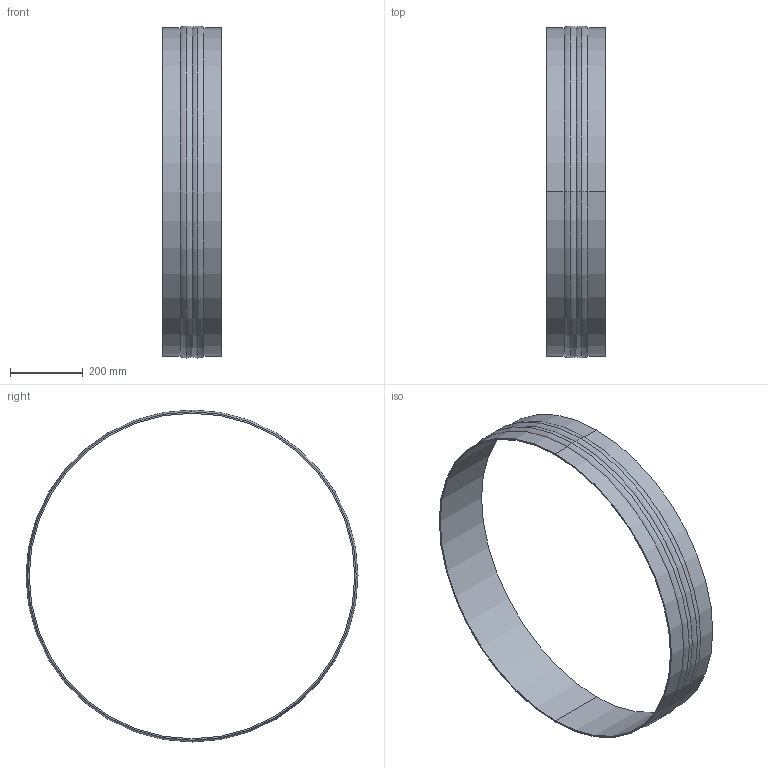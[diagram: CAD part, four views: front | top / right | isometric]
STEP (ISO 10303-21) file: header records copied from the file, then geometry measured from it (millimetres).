
FILE_DESCRIPTION(('STEP AP214'),'1');
FILE_NAME('accessory_5138886800.stp','2017-10-09T09:13:05',('TraceParts'),('TraceParts S.A.'),'Spatial InterOp 3D',' ',' ');
FILE_SCHEMA(('automotive_design'));
Length unit declared in the file: millimetre
Products named in the file (1): accessory_5138886800
Bounding box: 160 x 909.6 x 909.6 mm (x, y, z)
Volume: 2422776.9 mm3; surface area: 934035.8 mm2
Topology: 1 solids, 1 shells, 16 faces, 32 edges, 18 vertices
Faces by surface type: torus 8, cylinder 6, plane 2
Entity records: 570 total; most frequent: DIRECTION 92, CARTESIAN_POINT 67, ORIENTED_EDGE 64, AXIS2_PLACEMENT_3D 43, EDGE_CURVE 32, CIRCLE 26, EDGE_LOOP 18, VERTEX_POINT 18
